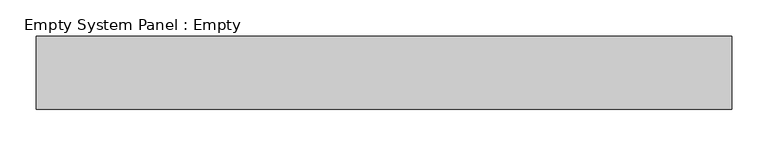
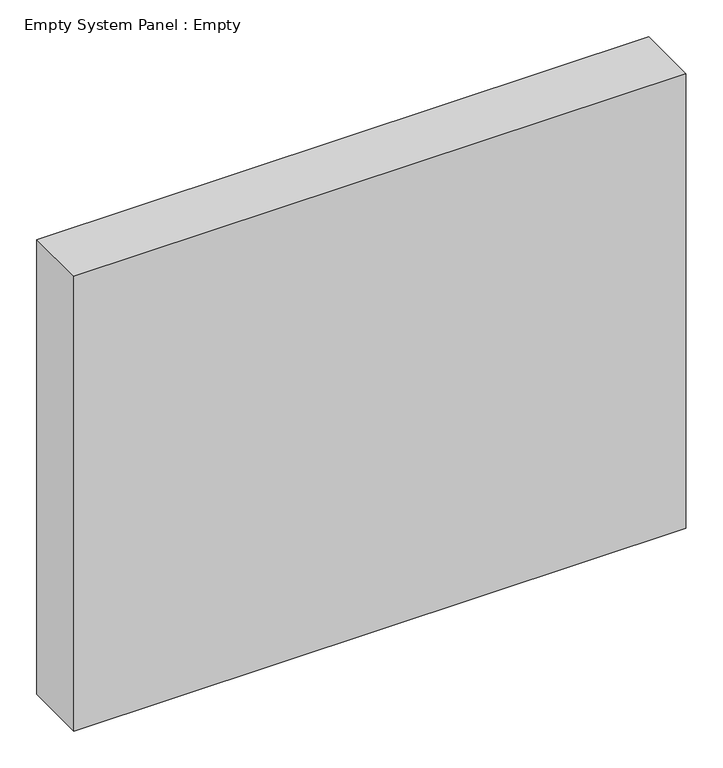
"""IFC4 building model written with IfcOpenShell, lengths in millimetres: plate geometry, Empty System Panel : Empty."""

from ifc_helpers import new_model, si_unit, origin, origin_with_axes, place, context, project, spatial, polyline, outline, extrude, source, transform, mapped, element, save


def empty_system_panel_empty_e6763725(model_context):
    return source(origin(), model_context, "Body", "SweptSolid", [
        extrude(outline(polyline([(477.5, -50.0), (-477.5, -50.0), (-477.5, 50.0), (477.5, 50.0), (477.5, -50.0)])), origin_with_axes(), (0.0, 0.0, 1.0), 750.0),
    ])


if __name__ == "__main__":
    model = new_model("IFC4")
    model_context = context("Model", 3, world=origin())
    ifc_project = project(units=[si_unit("LENGTHUNIT", "METRE", prefix="MILLI")], contexts=[model_context])
    site = spatial("IfcSite", under=ifc_project)
    building = spatial("IfcBuilding", under=site)
    placement = place(None, origin())
    empty_system_panel_empty_shape = empty_system_panel_empty_e6763725(model_context)
    element("IfcPlate", 1, ObjectType="Empty System Panel : Empty", at=placement, inside=building, context=model_context, shape_type="MappedRepresentation", body=[
        mapped(empty_system_panel_empty_shape, transform((0.0, 0.0, 0.0), x_axis=(1.0, 0.0, 0.0), y_axis=(0.0, 1.0, 0.0), z_axis=(0.0, 0.0, 1.0))),
    ])
    save(model, "model.ifc")
